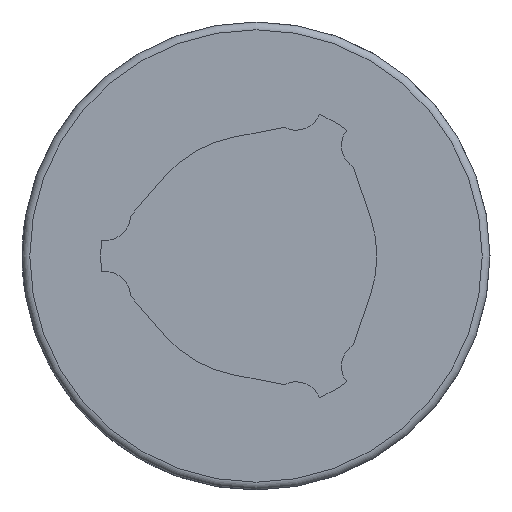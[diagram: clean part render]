
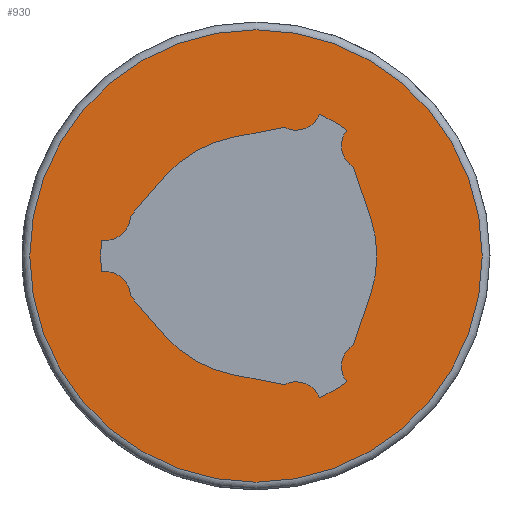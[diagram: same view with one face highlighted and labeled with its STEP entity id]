
A CAD part, left-side view. The second image highlights one B-rep face of the part: STEP entity #930.
In plain terms, the highlighted planar face has unit normal (-1, 0, 0).
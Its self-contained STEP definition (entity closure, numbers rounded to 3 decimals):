
#71=LINE('',#1439,#141);
#72=LINE('',#1448,#142);
#73=LINE('',#1452,#143);
#74=LINE('',#1460,#144);
#75=LINE('',#1464,#145);
#76=LINE('',#1472,#146);
#141=VECTOR('',#1135,1000.);
#142=VECTOR('',#1142,1000.);
#143=VECTOR('',#1145,1000.);
#144=VECTOR('',#1152,1000.);
#145=VECTOR('',#1155,1000.);
#146=VECTOR('',#1162,1000.);
#211=ORIENTED_EDGE('',*,*,#483,.F.);
#212=ORIENTED_EDGE('',*,*,#484,.T.);
#213=ORIENTED_EDGE('',*,*,#485,.F.);
#214=ORIENTED_EDGE('',*,*,#486,.T.);
#215=ORIENTED_EDGE('',*,*,#487,.F.);
#216=ORIENTED_EDGE('',*,*,#488,.T.);
#217=ORIENTED_EDGE('',*,*,#489,.T.);
#218=ORIENTED_EDGE('',*,*,#490,.T.);
#219=ORIENTED_EDGE('',*,*,#491,.F.);
#220=ORIENTED_EDGE('',*,*,#492,.T.);
#221=ORIENTED_EDGE('',*,*,#493,.F.);
#222=ORIENTED_EDGE('',*,*,#494,.T.);
#223=ORIENTED_EDGE('',*,*,#495,.T.);
#224=ORIENTED_EDGE('',*,*,#496,.T.);
#225=ORIENTED_EDGE('',*,*,#497,.F.);
#226=ORIENTED_EDGE('',*,*,#498,.T.);
#227=ORIENTED_EDGE('',*,*,#499,.F.);
#228=ORIENTED_EDGE('',*,*,#500,.T.);
#229=ORIENTED_EDGE('',*,*,#501,.T.);
#483=EDGE_CURVE('',#619,#619,#713,.T.);
#484=EDGE_CURVE('',#620,#621,#71,.T.);
#485=EDGE_CURVE('',#622,#621,#714,.T.);
#486=EDGE_CURVE('',#622,#623,#715,.T.);
#487=EDGE_CURVE('',#624,#623,#716,.T.);
#488=EDGE_CURVE('',#624,#625,#72,.T.);
#489=EDGE_CURVE('',#625,#626,#717,.T.);
#490=EDGE_CURVE('',#626,#627,#73,.T.);
#491=EDGE_CURVE('',#628,#627,#718,.T.);
#492=EDGE_CURVE('',#628,#629,#719,.T.);
#493=EDGE_CURVE('',#630,#629,#720,.T.);
#494=EDGE_CURVE('',#630,#631,#74,.T.);
#495=EDGE_CURVE('',#631,#632,#721,.T.);
#496=EDGE_CURVE('',#632,#633,#75,.T.);
#497=EDGE_CURVE('',#634,#633,#722,.T.);
#498=EDGE_CURVE('',#634,#635,#723,.T.);
#499=EDGE_CURVE('',#636,#635,#724,.T.);
#500=EDGE_CURVE('',#636,#637,#76,.T.);
#501=EDGE_CURVE('',#637,#620,#725,.T.);
#619=VERTEX_POINT('',#1438);
#620=VERTEX_POINT('',#1440);
#621=VERTEX_POINT('',#1441);
#622=VERTEX_POINT('',#1443);
#623=VERTEX_POINT('',#1445);
#624=VERTEX_POINT('',#1447);
#625=VERTEX_POINT('',#1449);
#626=VERTEX_POINT('',#1451);
#627=VERTEX_POINT('',#1453);
#628=VERTEX_POINT('',#1455);
#629=VERTEX_POINT('',#1457);
#630=VERTEX_POINT('',#1459);
#631=VERTEX_POINT('',#1461);
#632=VERTEX_POINT('',#1463);
#633=VERTEX_POINT('',#1465);
#634=VERTEX_POINT('',#1467);
#635=VERTEX_POINT('',#1469);
#636=VERTEX_POINT('',#1471);
#637=VERTEX_POINT('',#1473);
#713=CIRCLE('',#1013,29.);
#714=CIRCLE('',#1014,3.3);
#715=CIRCLE('',#1015,19.9);
#716=CIRCLE('',#1016,3.3);
#717=CIRCLE('',#1017,15.5);
#718=CIRCLE('',#1018,3.3);
#719=CIRCLE('',#1019,19.9);
#720=CIRCLE('',#1020,3.3);
#721=CIRCLE('',#1021,15.5);
#722=CIRCLE('',#1022,3.3);
#723=CIRCLE('',#1023,19.9);
#724=CIRCLE('',#1024,3.3);
#725=CIRCLE('',#1025,15.5);
#772=EDGE_LOOP('',(#211));
#773=EDGE_LOOP('',(#212,#213,#214,#215,#216,#217,#218,#219,#220,#221,#222,
#223,#224,#225,#226,#227,#228,#229));
#840=FACE_BOUND('',#772,.T.);
#841=FACE_BOUND('',#773,.T.);
#908=PLANE('',#1012);
#930=ADVANCED_FACE('',(#840,#841),#908,.F.);
#1012=AXIS2_PLACEMENT_3D('',#1436,#1131,#1132);
#1013=AXIS2_PLACEMENT_3D('',#1437,#1133,#1134);
#1014=AXIS2_PLACEMENT_3D('',#1442,#1136,#1137);
#1015=AXIS2_PLACEMENT_3D('',#1444,#1138,#1139);
#1016=AXIS2_PLACEMENT_3D('',#1446,#1140,#1141);
#1017=AXIS2_PLACEMENT_3D('',#1450,#1143,#1144);
#1018=AXIS2_PLACEMENT_3D('',#1454,#1146,#1147);
#1019=AXIS2_PLACEMENT_3D('',#1456,#1148,#1149);
#1020=AXIS2_PLACEMENT_3D('',#1458,#1150,#1151);
#1021=AXIS2_PLACEMENT_3D('',#1462,#1153,#1154);
#1022=AXIS2_PLACEMENT_3D('',#1466,#1156,#1157);
#1023=AXIS2_PLACEMENT_3D('',#1468,#1158,#1159);
#1024=AXIS2_PLACEMENT_3D('',#1470,#1160,#1161);
#1025=AXIS2_PLACEMENT_3D('',#1474,#1163,#1164);
#1131=DIRECTION('',(1.,0.,0.));
#1132=DIRECTION('',(0.,0.,-1.));
#1133=DIRECTION('',(1.,0.,0.));
#1134=DIRECTION('',(0.,0.,-1.));
#1135=DIRECTION('',(0.,-0.982,0.191));
#1136=DIRECTION('',(1.,0.,0.));
#1137=DIRECTION('',(0.,0.,-1.));
#1138=DIRECTION('',(1.,0.,0.));
#1139=DIRECTION('',(0.,0.,-1.));
#1140=DIRECTION('',(1.,0.,0.));
#1141=DIRECTION('',(0.,0.,-1.));
#1142=DIRECTION('',(0.,-0.326,-0.946));
#1143=DIRECTION('',(1.,0.,0.));
#1144=DIRECTION('',(0.,0.,-1.));
#1145=DIRECTION('',(0.,0.326,-0.946));
#1146=DIRECTION('',(1.,0.,0.));
#1147=DIRECTION('',(0.,0.,-1.));
#1148=DIRECTION('',(1.,0.,0.));
#1149=DIRECTION('',(0.,0.,-1.));
#1150=DIRECTION('',(1.,0.,0.));
#1151=DIRECTION('',(0.,0.,-1.));
#1152=DIRECTION('',(0.,0.982,0.191));
#1153=DIRECTION('',(1.,0.,0.));
#1154=DIRECTION('',(0.,0.,-1.));
#1155=DIRECTION('',(0.,0.656,0.755));
#1156=DIRECTION('',(1.,0.,0.));
#1157=DIRECTION('',(0.,0.,-1.));
#1158=DIRECTION('',(1.,0.,0.));
#1159=DIRECTION('',(0.,0.,-1.));
#1160=DIRECTION('',(1.,0.,0.));
#1161=DIRECTION('',(0.,0.,-1.));
#1162=DIRECTION('',(0.,-0.656,0.755));
#1163=DIRECTION('',(1.,0.,0.));
#1164=DIRECTION('',(0.,0.,-1.));
#1436=CARTESIAN_POINT('',(0.,0.,0.));
#1437=CARTESIAN_POINT('',(0.,0.,0.));
#1438=CARTESIAN_POINT('',(0.,0.,-29.));
#1439=CARTESIAN_POINT('',(0.,2.958,15.215));
#1440=CARTESIAN_POINT('',(0.,2.958,15.215));
#1441=CARTESIAN_POINT('',(0.,-3.606,16.491));
#1442=CARTESIAN_POINT('',(0.,-5.114,19.427));
#1443=CARTESIAN_POINT('',(0.,-8.157,18.151));
#1444=CARTESIAN_POINT('',(0.,0.,0.));
#1445=CARTESIAN_POINT('',(0.,-11.641,16.14));
#1446=CARTESIAN_POINT('',(0.,-14.267,14.142));
#1447=CARTESIAN_POINT('',(0.,-12.479,11.369));
#1448=CARTESIAN_POINT('',(0.,-12.479,11.369));
#1449=CARTESIAN_POINT('',(0.,-14.656,5.046));
#1450=CARTESIAN_POINT('',(0.,0.,0.));
#1451=CARTESIAN_POINT('',(0.,-14.656,-5.046));
#1452=CARTESIAN_POINT('',(0.,-14.656,-5.046));
#1453=CARTESIAN_POINT('',(0.,-12.479,-11.369));
#1454=CARTESIAN_POINT('',(0.,-14.267,-14.142));
#1455=CARTESIAN_POINT('',(0.,-11.641,-16.14));
#1456=CARTESIAN_POINT('',(0.,0.,0.));
#1457=CARTESIAN_POINT('',(0.,-8.157,-18.151));
#1458=CARTESIAN_POINT('',(0.,-5.114,-19.427));
#1459=CARTESIAN_POINT('',(0.,-3.606,-16.491));
#1460=CARTESIAN_POINT('',(0.,-3.606,-16.491));
#1461=CARTESIAN_POINT('',(0.,2.958,-15.215));
#1462=CARTESIAN_POINT('',(0.,0.,0.));
#1463=CARTESIAN_POINT('',(0.,11.698,-10.169));
#1464=CARTESIAN_POINT('',(0.,11.698,-10.169));
#1465=CARTESIAN_POINT('',(0.,16.085,-5.122));
#1466=CARTESIAN_POINT('',(0.,19.381,-5.285));
#1467=CARTESIAN_POINT('',(0.,19.798,-2.011));
#1468=CARTESIAN_POINT('',(0.,0.,0.));
#1469=CARTESIAN_POINT('',(0.,19.798,2.011));
#1470=CARTESIAN_POINT('',(0.,19.381,5.285));
#1471=CARTESIAN_POINT('',(0.,16.085,5.122));
#1472=CARTESIAN_POINT('',(0.,16.085,5.122));
#1473=CARTESIAN_POINT('',(0.,11.698,10.169));
#1474=CARTESIAN_POINT('',(0.,0.,0.));
